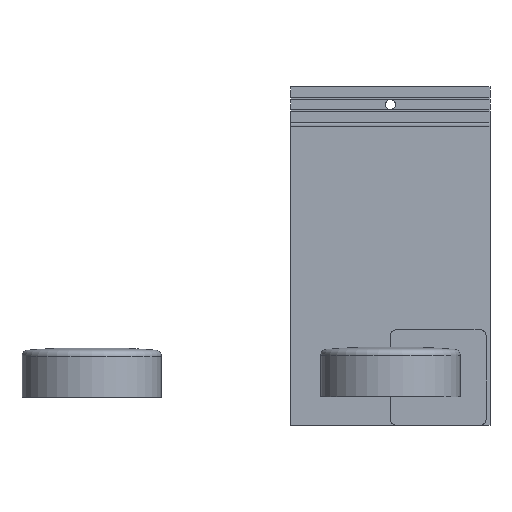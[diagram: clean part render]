
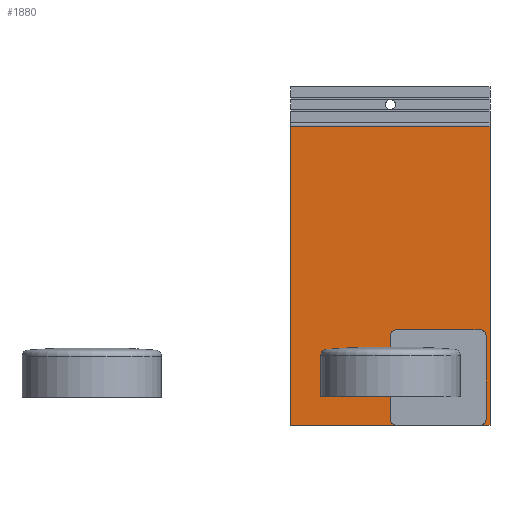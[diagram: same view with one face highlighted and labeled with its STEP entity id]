
A CAD part, top view. The second image highlights one B-rep face of the part: STEP entity #1880.
In plain terms, the highlighted planar face has unit normal (0, 0, 1).
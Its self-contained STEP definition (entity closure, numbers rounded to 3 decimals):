
#1042=DIRECTION('',(0.,-1.,0.));
#1043=VECTOR('',#1042,150.);
#1044=CARTESIAN_POINT('',(-50.,150.,0.));
#1045=LINE('',#1044,#1043);
#1234=DIRECTION('',(0.,-1.,0.));
#1235=VECTOR('',#1234,150.);
#1236=CARTESIAN_POINT('',(50.,150.,0.));
#1237=LINE('',#1236,#1235);
#1335=DIRECTION('',(1.,0.,0.));
#1336=VECTOR('',#1335,100.);
#1337=CARTESIAN_POINT('',(-50.,0.,0.));
#1338=LINE('',#1337,#1336);
#1339=DIRECTION('',(1.,0.,0.));
#1340=VECTOR('',#1339,100.);
#1341=CARTESIAN_POINT('',(-50.,150.,0.));
#1342=LINE('',#1341,#1340);
#1355=CARTESIAN_POINT('',(-50.,150.,0.));
#1356=CARTESIAN_POINT('',(-50.,0.,0.));
#1357=VERTEX_POINT('',#1355);
#1358=VERTEX_POINT('',#1356);
#1363=CARTESIAN_POINT('',(50.,150.,0.));
#1364=CARTESIAN_POINT('',(50.,0.,0.));
#1365=VERTEX_POINT('',#1363);
#1366=VERTEX_POINT('',#1364);
#1868=CARTESIAN_POINT('',(-50.,150.,0.));
#1869=DIRECTION('',(0.,0.,1.));
#1870=DIRECTION('',(0.,-1.,0.));
#1871=AXIS2_PLACEMENT_3D('',#1868,#1869,#1870);
#1872=PLANE('',#1871);
#1873=ORIENTED_EDGE('',*,*,#1476,.F.);
#1875=ORIENTED_EDGE('',*,*,#1874,.T.);
#1876=ORIENTED_EDGE('',*,*,#1706,.T.);
#1877=ORIENTED_EDGE('',*,*,#1861,.F.);
#1878=EDGE_LOOP('',(#1873,#1875,#1876,#1877));
#1879=FACE_OUTER_BOUND('',#1878,.F.);
#1880=ADVANCED_FACE('',(#1879),#1872,.T.);
#1476=EDGE_CURVE('',#1357,#1358,#1045,.T.);
#1706=EDGE_CURVE('',#1365,#1366,#1237,.T.);
#1861=EDGE_CURVE('',#1358,#1366,#1338,.T.);
#1874=EDGE_CURVE('',#1357,#1365,#1342,.T.);
